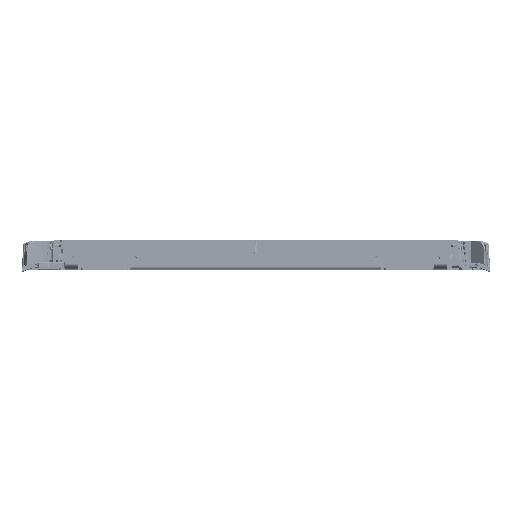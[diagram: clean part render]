
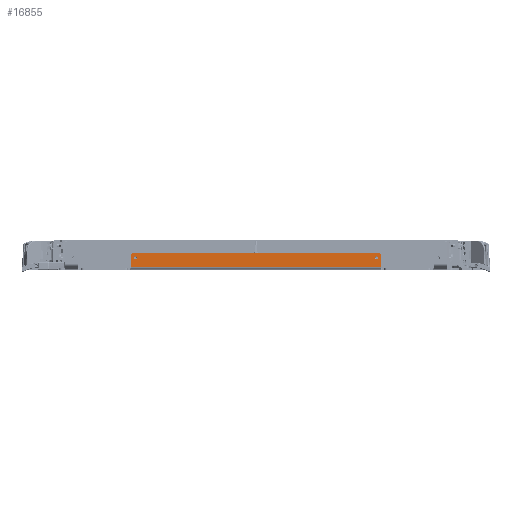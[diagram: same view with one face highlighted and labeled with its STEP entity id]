
A CAD part, left-side view. The second image highlights one B-rep face of the part: STEP entity #16855.
In plain terms, the highlighted planar face has unit normal (-1, 0, 0).
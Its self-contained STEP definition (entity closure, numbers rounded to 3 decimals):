
#9528=FACE_BOUND('',#34852,.T.);
#9529=FACE_BOUND('',#34853,.T.);
#9530=FACE_BOUND('',#34854,.T.);
#16855=ADVANCED_FACE('',(#9528,#9529,#9530),#22244,.T.);
#22244=PLANE('',#138609);
#34852=EDGE_LOOP('',(#57153));
#34853=EDGE_LOOP('',(#57154));
#34854=EDGE_LOOP('',(#57155,#57156,#57157,#57158,#57159,#57160));
#57153=ORIENTED_EDGE('',*,*,#98306,.T.);
#57154=ORIENTED_EDGE('',*,*,#98307,.T.);
#57155=ORIENTED_EDGE('',*,*,#97863,.T.);
#57156=ORIENTED_EDGE('',*,*,#98308,.T.);
#57157=ORIENTED_EDGE('',*,*,#98309,.T.);
#57158=ORIENTED_EDGE('',*,*,#98310,.T.);
#57159=ORIENTED_EDGE('',*,*,#97868,.T.);
#57160=ORIENTED_EDGE('',*,*,#98311,.T.);
#82921=VERTEX_POINT('',#213060);
#82922=VERTEX_POINT('',#213062);
#82925=VERTEX_POINT('',#213070);
#82926=VERTEX_POINT('',#213072);
#83201=VERTEX_POINT('',#213892);
#83202=VERTEX_POINT('',#213894);
#83203=VERTEX_POINT('',#213896);
#83204=VERTEX_POINT('',#213898);
#97863=EDGE_CURVE('',#82922,#82921,#112594,.T.);
#97868=EDGE_CURVE('',#82926,#82925,#112597,.T.);
#98306=EDGE_CURVE('',#83201,#83201,#129328,.T.);
#98307=EDGE_CURVE('',#83202,#83202,#129329,.T.);
#98308=EDGE_CURVE('',#82921,#83203,#129330,.T.);
#98309=EDGE_CURVE('',#83203,#83204,#112834,.T.);
#98310=EDGE_CURVE('',#83204,#82926,#129331,.T.);
#98311=EDGE_CURVE('',#82925,#82922,#112835,.T.);
#112594=LINE('',#213061,#121921);
#112597=LINE('',#213071,#121924);
#112834=LINE('',#213897,#122161);
#112835=LINE('',#213900,#122162);
#121921=VECTOR('',#163967,1.);
#121924=VECTOR('',#163976,1.);
#122161=VECTOR('',#164835,1.);
#122162=VECTOR('',#164838,1.);
#129328=CIRCLE('',#138605,1.7);
#129329=CIRCLE('',#138606,1.7);
#129330=CIRCLE('',#138607,3.);
#129331=CIRCLE('',#138608,3.);
#138605=AXIS2_PLACEMENT_3D('',#213891,#164829,#164830);
#138606=AXIS2_PLACEMENT_3D('',#213893,#164831,#164832);
#138607=AXIS2_PLACEMENT_3D('',#213895,#164833,#164834);
#138608=AXIS2_PLACEMENT_3D('',#213899,#164836,#164837);
#138609=AXIS2_PLACEMENT_3D('',#213901,#164839,#164840);
#163967=DIRECTION('',(0.,0.,1.));
#163976=DIRECTION('',(0.,0.,-1.));
#164829=DIRECTION('',(1.,0.,0.));
#164830=DIRECTION('',(0.,0.,1.));
#164831=DIRECTION('',(1.,0.,0.));
#164832=DIRECTION('',(0.,0.,1.));
#164833=DIRECTION('',(-1.,0.,0.));
#164834=DIRECTION('',(0.,0.,1.));
#164835=DIRECTION('',(0.,1.,0.));
#164836=DIRECTION('',(-1.,0.,0.));
#164837=DIRECTION('',(0.,0.,1.));
#164838=DIRECTION('',(0.,-1.,0.));
#164839=DIRECTION('',(-1.,0.,0.));
#164840=DIRECTION('',(0.,0.,1.));
#213060=CARTESIAN_POINT('',(-129.55,-135.,-1.));
#213061=CARTESIAN_POINT('',(-129.55,-135.,-14.267));
#213062=CARTESIAN_POINT('',(-129.55,-135.,-12.5));
#213070=CARTESIAN_POINT('',(-129.55,135.,-12.5));
#213071=CARTESIAN_POINT('',(-129.55,135.,2.));
#213072=CARTESIAN_POINT('',(-129.55,135.,-1.));
#213891=CARTESIAN_POINT('',(-129.55,-130.,-3.));
#213892=CARTESIAN_POINT('',(-129.55,-130.,-1.3));
#213893=CARTESIAN_POINT('',(-129.55,130.,-3.));
#213894=CARTESIAN_POINT('',(-129.55,130.,-1.3));
#213895=CARTESIAN_POINT('',(-129.55,-132.,-1.));
#213896=CARTESIAN_POINT('',(-129.55,-132.,2.));
#213897=CARTESIAN_POINT('',(-129.55,-135.,2.));
#213898=CARTESIAN_POINT('',(-129.55,132.,2.));
#213899=CARTESIAN_POINT('',(-129.55,132.,-1.));
#213900=CARTESIAN_POINT('',(-129.55,135.,-12.5));
#213901=CARTESIAN_POINT('',(-129.55,-290.,-15.5));
